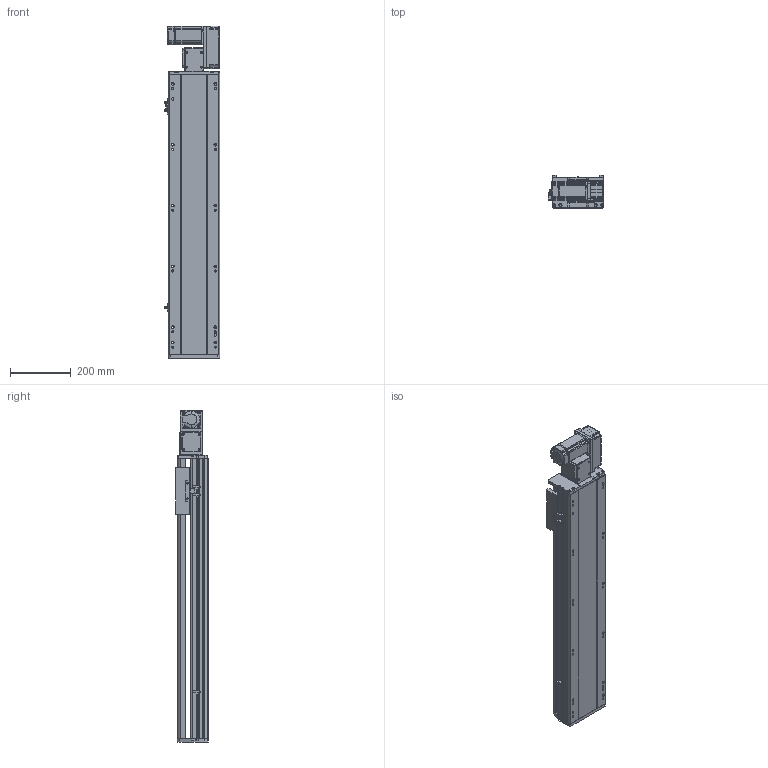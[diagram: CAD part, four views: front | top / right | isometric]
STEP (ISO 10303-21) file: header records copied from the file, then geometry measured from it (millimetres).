
FILE_DESCRIPTION (( 'STEP AP214' ), '1' );
FILE_NAME ('RTB17S-XX-650-R-M40-C4.STEP', '2025-12-11T07:34:40', ( '' ), ( '' ), 'SwSTEP 2.0', 'SolidWorks 2018', '' );
FILE_SCHEMA (( 'AUTOMOTIVE_DESIGN' ));
Length unit declared in the file: millimetre
Products named in the file (14): RTH13-BL-012覜茼え俋离^RTB17S-XX-XX-R-M40-C4; OMRON EE-SX672 传感器^RTB17S-XX-XX-R-M40-C4; RTB17S-R-々湍釱蚾饜-400W^RTB17S-XX-XX-R-M40-C4; RTB17S-L-014-T20--々湍釱^RTB17S-R-々湍釱蚾饜-400W_RTB17S-XX-XX-R-M40-C4; RTB17-R-011菁釱^RTB17S-XX-XX-R-M40-C4; RTB17S-L-001耜醱啣^RTB17S-XX-XX-R-M40-C4; RTB17S-L-007奻裔^RTB17S-XX-XX-R-M40-C4; RTB17S-XX-650-R-M40-C4; RTB14-L-017P^RTB17S-R-々湍釱蚾饜-400W_RTB17S-XX-XX-R-M40-C4; RTB14-L-005P--轴承塑胶压盖^RTB17S-R-皮带座装配-400W_RTB17S-XX-XX-R-M40-C4; RTB17S-L-004佪裝蹟譫蟀諉釱^RTB17S-XX-XX-R-M40-C4; RTB14-L-018P^RTB17S-R-々湍釱蚾饜-400W_RTB17S-XX-XX-R-M40-C4; 400W侜督萇儂^RTB17S-XX-XX-R-M40-C4; RTB14-L-008-M20--萇儂啣^RTB17S-R-々湍釱蚾饜-400W_RTB17S-XX-XX-R-M40-C4
Assembly tree (16 placements, depth 3):
  RTB17S-XX-650-R-M40-C4
    RTB17-R-011菁釱^RTB17S-XX-XX-R-M40-C4
    RTB17S-L-007奻裔^RTB17S-XX-XX-R-M40-C4
    OMRON EE-SX672 传感器^RTB17S-XX-XX-R-M40-C4  x3
    RTB17S-L-001耜醱啣^RTB17S-XX-XX-R-M40-C4
    400W侜督萇儂^RTB17S-XX-XX-R-M40-C4
    RTB17S-L-004佪裝蹟譫蟀諉釱^RTB17S-XX-XX-R-M40-C4
    RTH13-BL-012覜茼え俋离^RTB17S-XX-XX-R-M40-C4
    RTB17S-R-々湍釱蚾饜-400W^RTB17S-XX-XX-R-M40-C4
      RTB17S-L-014-T20--々湍釱^RTB17S-R-々湍釱蚾饜-400W_RTB17S-XX-XX-R-M40-C4
      RTB14-L-005P--轴承塑胶压盖^RTB17S-R-皮带座装配-400W_RTB17S-XX-XX-R-M40-C4
      RTB14-L-008-M20--萇儂啣^RTB17S-R-々湍釱蚾饜-400W_RTB17S-XX-XX-R-M40-C4
      RTB14-L-017P^RTB17S-R-々湍釱蚾饜-400W_RTB17S-XX-XX-R-M40-C4  x2
      RTB14-L-018P^RTB17S-R-々湍釱蚾饜-400W_RTB17S-XX-XX-R-M40-C4
Bounding box: 183.5 x 108 x 1091 mm (x, y, z)
Volume: 9514907.8 mm3; surface area: 1188611.5 mm2
Topology: 15 solids, 15 shells, 2189 faces, 6033 edges, 3933 vertices
Faces by surface type: plane 1066, cylinder 675, bspline 301, cone 139, torus 8
Entity records: 61865 total; most frequent: CARTESIAN_POINT 17238, ORIENTED_EDGE 8910, DIRECTION 8306, EDGE_CURVE 4455, VERTEX_POINT 2921, AXIS2_PLACEMENT_3D 2851, LINE 2604, VECTOR 2604
